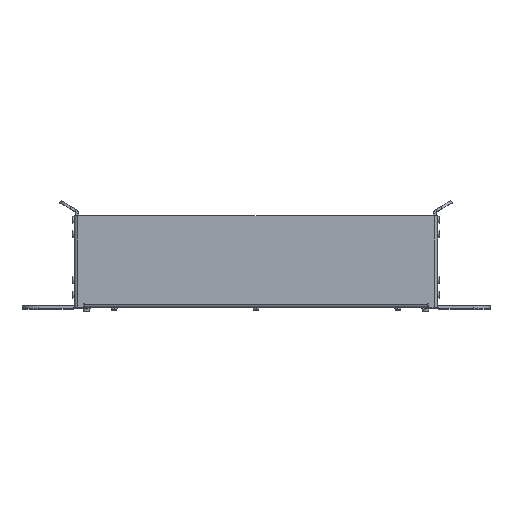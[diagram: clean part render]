
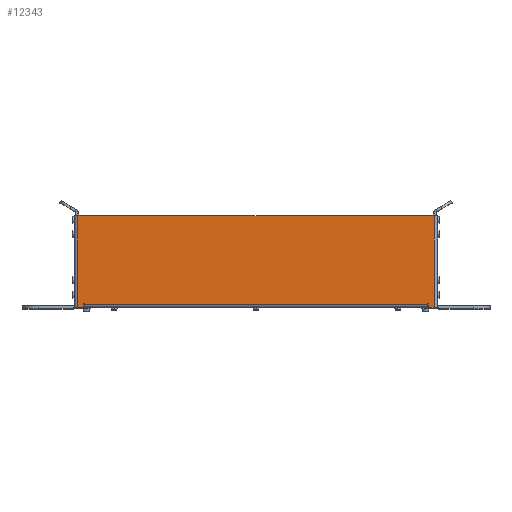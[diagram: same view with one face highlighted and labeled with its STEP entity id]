
A CAD part, top view. The second image highlights one B-rep face of the part: STEP entity #12343.
In plain terms, the highlighted planar face has unit normal (0, 0, 1).
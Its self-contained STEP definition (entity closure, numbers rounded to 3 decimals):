
#42 = VERTEX_POINT ( 'NONE', #7585 ) ;
#73 = CARTESIAN_POINT ( 'NONE',  ( -7.5, 13.39, 128.5 ) ) ;
#91 = VERTEX_POINT ( 'NONE', #1907 ) ;
#426 = VECTOR ( 'NONE', #5202, 1000. ) ;
#562 = DIRECTION ( 'NONE',  ( 0., -1., 0. ) ) ;
#724 = ORIENTED_EDGE ( 'NONE', *, *, #4295, .T. ) ;
#797 = CARTESIAN_POINT ( 'NONE',  ( -7., 9.89, 128.5 ) ) ;
#880 = ORIENTED_EDGE ( 'NONE', *, *, #2330, .T. ) ;
#1053 = LINE ( 'NONE', #5692, #7152 ) ;
#1388 = VERTEX_POINT ( 'NONE', #4936 ) ;
#1404 = DIRECTION ( 'NONE',  ( 0., 1., 0. ) ) ;
#1907 = CARTESIAN_POINT ( 'NONE',  ( -1.5, 9.89, 128.5 ) ) ;
#1924 = DIRECTION ( 'NONE',  ( 1., 0., 0. ) ) ;
#2060 = AXIS2_PLACEMENT_3D ( 'NONE', #14547, #13420, #7990 ) ;
#2256 = CARTESIAN_POINT ( 'NONE',  ( -326.5, 93.89, 128.5 ) ) ;
#2261 = EDGE_CURVE ( 'NONE', #5490, #7602, #13892, .T. ) ;
#2303 = VECTOR ( 'NONE', #9965, 1000. ) ;
#2330 = EDGE_CURVE ( 'NONE', #42, #3782, #9616, .T. ) ;
#2396 = ORIENTED_EDGE ( 'NONE', *, *, #8659, .T. ) ;
#2487 = CARTESIAN_POINT ( 'NONE',  ( -7.25, 13.39, 128.5 ) ) ;
#2668 = ORIENTED_EDGE ( 'NONE', *, *, #3436, .T. ) ;
#2938 = VERTEX_POINT ( 'NONE', #6026 ) ;
#2987 = VERTEX_POINT ( 'NONE', #8152 ) ;
#3013 = VECTOR ( 'NONE', #11669, 1000. ) ;
#3218 = ORIENTED_EDGE ( 'NONE', *, *, #5641, .T. ) ;
#3436 = EDGE_CURVE ( 'NONE', #7877, #2938, #1053, .T. ) ;
#3669 = DIRECTION ( 'NONE',  ( 1., 0., 0. ) ) ;
#3782 = VERTEX_POINT ( 'NONE', #5074 ) ;
#4236 = DIRECTION ( 'NONE',  ( 0., 0., -1. ) ) ;
#4295 = EDGE_CURVE ( 'NONE', #4949, #7877, #7479, .T. ) ;
#4307 = EDGE_CURVE ( 'NONE', #7602, #91, #12969, .T. ) ;
#4936 = CARTESIAN_POINT ( 'NONE',  ( -7., 13.39, 128.5 ) ) ;
#4949 = VERTEX_POINT ( 'NONE', #12694 ) ;
#5074 = CARTESIAN_POINT ( 'NONE',  ( -322.5, 12.89, 128.5 ) ) ;
#5202 = DIRECTION ( 'NONE',  ( 0., 1., 0. ) ) ;
#5241 = CARTESIAN_POINT ( 'NONE',  ( -322.5, 9.89, 128.5 ) ) ;
#5252 = EDGE_LOOP ( 'NONE', ( #13107, #6394, #7347, #2396, #9894, #724, #2668, #12271, #10932, #880, #9495, #10862, #3218 ) ) ;
#5366 = CARTESIAN_POINT ( 'NONE',  ( -7., 10.89, 128.5 ) ) ;
#5371 = VERTEX_POINT ( 'NONE', #73 ) ;
#5378 = LINE ( 'NONE', #14292, #2303 ) ;
#5447 = EDGE_CURVE ( 'NONE', #7428, #42, #10743, .T. ) ;
#5490 = VERTEX_POINT ( 'NONE', #5366 ) ;
#5608 = LINE ( 'NONE', #2256, #8615 ) ;
#5641 = EDGE_CURVE ( 'NONE', #5371, #1388, #12086, .T. ) ;
#5692 = CARTESIAN_POINT ( 'NONE',  ( -326.5, 9.89, 128.5 ) ) ;
#5889 = DIRECTION ( 'NONE',  ( 1., 0., 0. ) ) ;
#6026 = CARTESIAN_POINT ( 'NONE',  ( -323., 9.89, 128.5 ) ) ;
#6247 = CARTESIAN_POINT ( 'NONE',  ( -326.5, 9.89, 128.5 ) ) ;
#6394 = ORIENTED_EDGE ( 'NONE', *, *, #2261, .T. ) ;
#6633 = VECTOR ( 'NONE', #14094, 1000. ) ;
#6728 = CARTESIAN_POINT ( 'NONE',  ( -328.5, 9.89, 128.5 ) ) ;
#6745 = EDGE_CURVE ( 'NONE', #10046, #4949, #5608, .T. ) ;
#6808 = DIRECTION ( 'NONE',  ( -1., 0., 0. ) ) ;
#6847 = AXIS2_PLACEMENT_3D ( 'NONE', #10928, #4236, #12008 ) ;
#7114 = CARTESIAN_POINT ( 'NONE',  ( -7.5, 9.89, 128.5 ) ) ;
#7152 = VECTOR ( 'NONE', #5889, 1000. ) ;
#7337 = AXIS2_PLACEMENT_3D ( 'NONE', #2487, #10390, #3669 ) ;
#7347 = ORIENTED_EDGE ( 'NONE', *, *, #4307, .T. ) ;
#7428 = VERTEX_POINT ( 'NONE', #12581 ) ;
#7479 = LINE ( 'NONE', #8560, #10421 ) ;
#7585 = CARTESIAN_POINT ( 'NONE',  ( -322.5, 13.39, 128.5 ) ) ;
#7602 = VERTEX_POINT ( 'NONE', #11871 ) ;
#7618 = PLANE ( 'NONE',  #12776 ) ;
#7667 = DIRECTION ( 'NONE',  ( 0., -1., 0. ) ) ;
#7877 = VERTEX_POINT ( 'NONE', #6728 ) ;
#7990 = DIRECTION ( 'NONE',  ( 1., 0., 0. ) ) ;
#8152 = CARTESIAN_POINT ( 'NONE',  ( -7.5, 12.89, 128.5 ) ) ;
#8560 = CARTESIAN_POINT ( 'NONE',  ( -328.5, 93.89, 128.5 ) ) ;
#8592 = CARTESIAN_POINT ( 'NONE',  ( -323., 9.89, 128.5 ) ) ;
#8615 = VECTOR ( 'NONE', #6808, 1000. ) ;
#8659 = EDGE_CURVE ( 'NONE', #91, #10046, #5378, .T. ) ;
#8744 = DIRECTION ( 'NONE',  ( 0., 0., 1. ) ) ;
#9035 = LINE ( 'NONE', #10580, #3013 ) ;
#9203 = LINE ( 'NONE', #797, #14326 ) ;
#9495 = ORIENTED_EDGE ( 'NONE', *, *, #10068, .T. ) ;
#9616 = LINE ( 'NONE', #5241, #6633 ) ;
#9894 = ORIENTED_EDGE ( 'NONE', *, *, #6745, .T. ) ;
#9965 = DIRECTION ( 'NONE',  ( 0., 1., 0. ) ) ;
#10046 = VERTEX_POINT ( 'NONE', #13819 ) ;
#10068 = EDGE_CURVE ( 'NONE', #3782, #2987, #9035, .T. ) ;
#10093 = VECTOR ( 'NONE', #11878, 1000. ) ;
#10314 = EDGE_CURVE ( 'NONE', #1388, #5490, #9203, .T. ) ;
#10390 = DIRECTION ( 'NONE',  ( 0., 0., -1. ) ) ;
#10421 = VECTOR ( 'NONE', #562, 1000. ) ;
#10580 = CARTESIAN_POINT ( 'NONE',  ( -322.5, 12.89, 128.5 ) ) ;
#10743 = CIRCLE ( 'NONE', #6847, 0.25 ) ;
#10744 = LINE ( 'NONE', #8592, #426 ) ;
#10859 = LINE ( 'NONE', #7114, #13409 ) ;
#10862 = ORIENTED_EDGE ( 'NONE', *, *, #14440, .T. ) ;
#10928 = CARTESIAN_POINT ( 'NONE',  ( -322.75, 13.39, 128.5 ) ) ;
#10932 = ORIENTED_EDGE ( 'NONE', *, *, #5447, .T. ) ;
#11085 = EDGE_CURVE ( 'NONE', #2938, #7428, #10744, .T. ) ;
#11669 = DIRECTION ( 'NONE',  ( 1., 0., 0. ) ) ;
#11871 = CARTESIAN_POINT ( 'NONE',  ( -6., 9.89, 128.5 ) ) ;
#11878 = DIRECTION ( 'NONE',  ( 1., 0., 0. ) ) ;
#11998 = CARTESIAN_POINT ( 'NONE',  ( -165., 9.89, 128.5 ) ) ;
#12008 = DIRECTION ( 'NONE',  ( 1., 0., 0. ) ) ;
#12086 = CIRCLE ( 'NONE', #7337, 0.25 ) ;
#12271 = ORIENTED_EDGE ( 'NONE', *, *, #11085, .T. ) ;
#12343 = ADVANCED_FACE ( 'NONE', ( #14059 ), #7618, .T. ) ;
#12581 = CARTESIAN_POINT ( 'NONE',  ( -323., 13.39, 128.5 ) ) ;
#12694 = CARTESIAN_POINT ( 'NONE',  ( -328.5, 93.89, 128.5 ) ) ;
#12776 = AXIS2_PLACEMENT_3D ( 'NONE', #11998, #8744, #1924 ) ;
#12969 = LINE ( 'NONE', #6247, #10093 ) ;
#13107 = ORIENTED_EDGE ( 'NONE', *, *, #10314, .T. ) ;
#13409 = VECTOR ( 'NONE', #1404, 1000. ) ;
#13420 = DIRECTION ( 'NONE',  ( 0., 0., 1. ) ) ;
#13819 = CARTESIAN_POINT ( 'NONE',  ( -1.5, 93.89, 128.5 ) ) ;
#13892 = CIRCLE ( 'NONE', #2060, 1. ) ;
#14059 = FACE_OUTER_BOUND ( 'NONE', #5252, .T. ) ;
#14094 = DIRECTION ( 'NONE',  ( 0., -1., 0. ) ) ;
#14292 = CARTESIAN_POINT ( 'NONE',  ( -1.5, 9.89, 128.5 ) ) ;
#14326 = VECTOR ( 'NONE', #7667, 1000. ) ;
#14440 = EDGE_CURVE ( 'NONE', #2987, #5371, #10859, .T. ) ;
#14547 = CARTESIAN_POINT ( 'NONE',  ( -6., 10.89, 128.5 ) ) ;
